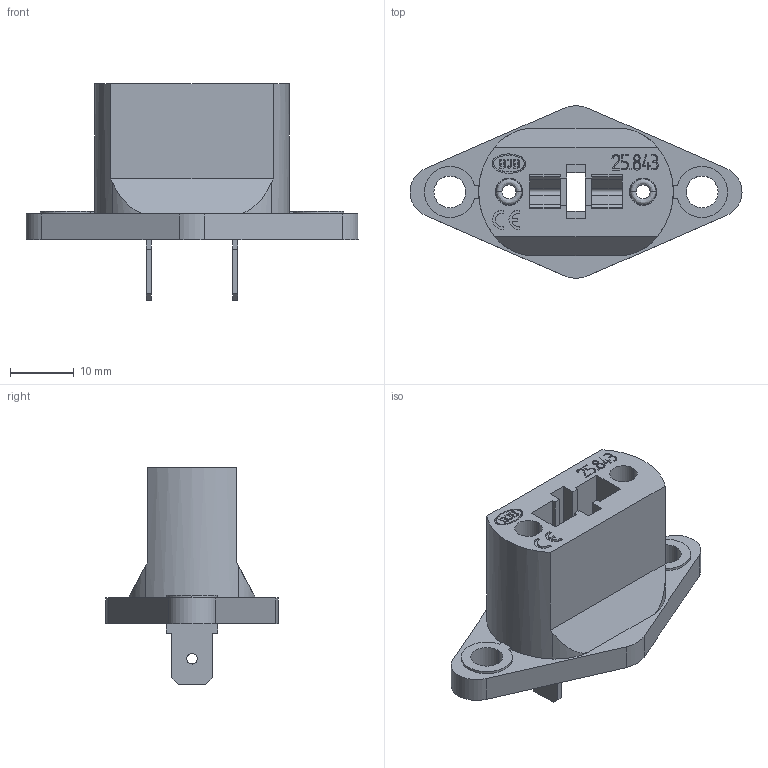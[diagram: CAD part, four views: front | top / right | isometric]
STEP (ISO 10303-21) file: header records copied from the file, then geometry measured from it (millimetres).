
FILE_DESCRIPTION(('CAx-IF Rec.Pracs.---Model Styling and Organization---1.2---2011-12-15','CAx-IF Rec.Pracs.---Geometric and Assembly Validation Properties---4.1---2014-06-16','CAx-IF Rec.Pracs.---PMI Polyline Presentation---2.0---2013-05-24'),'2;1');
FILE_NAME('020YQ01Y04.stp','2021-07-26T07:51:47+02:00',(''),(''),'STEP Interface 4.4 by CT CoreTechnologie','3D_Evolution4.4 by CT CoreTechnologie','');
FILE_SCHEMA(('AP203_CONFIGURATION_CONTROLLED_3D_DESIGN_OF_MECHANICAL_PARTS_AND_ASSEMBLIES_MIM_LF'));
Length unit declared in the file: millimetre
Products named in the file (1): 020YQ01Y04
Bounding box: 52 x 26.97 x 33.92 mm (x, y, z)
Volume: 9118.8 mm3; surface area: 6432.5 mm2
Topology: 1 solids, 3 shells, 360 faces, 970 edges, 648 vertices
Faces by surface type: plane 249, cylinder 58, bspline 53
Entity records: 33718 total; most frequent: CARTESIAN_POINT 8183, PROPERTY_DEFINITION 2360, ORIENTED_EDGE 1940, DIRECTION 1663, SHAPE_REPRESENTATION 1181, SHAPE_DEFINITION_REPRESENTATION 1181, REPRESENTATION 1180, SHAPE_ASPECT 1180
